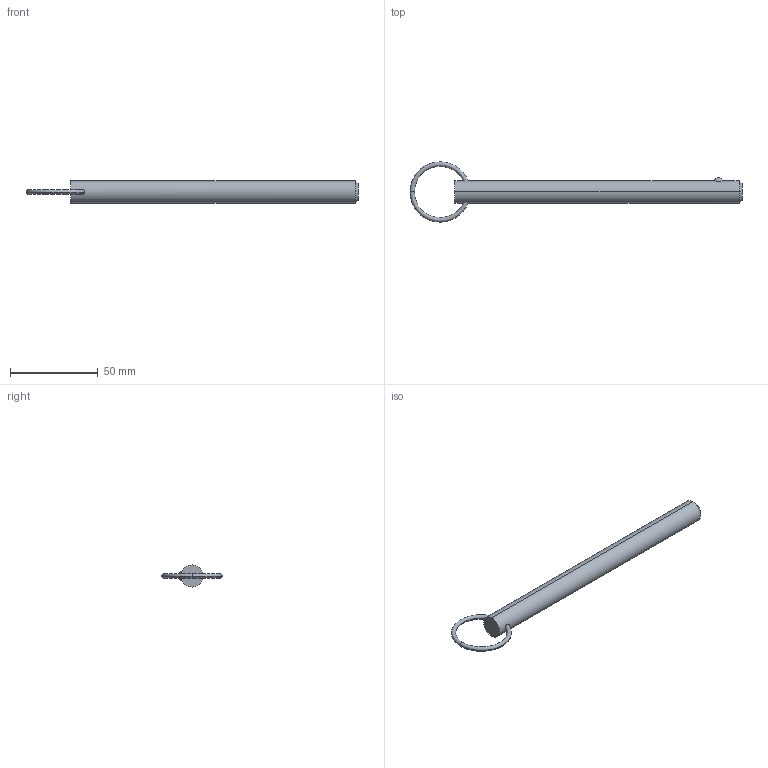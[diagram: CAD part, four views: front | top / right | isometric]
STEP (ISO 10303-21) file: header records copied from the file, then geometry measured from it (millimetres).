
FILE_DESCRIPTION (( 'STEP AP203' ), '1' );
FILE_NAME ('33012.W5055.step', '2024-11-01T14:13:56', ( '' ), ( '' ), 'SwSTEP 2.0', 'SolidWorks 2019', '' );
FILE_SCHEMA (( 'CONFIG_CONTROL_DESIGN' ));
Length unit declared in the file: millimetre
Products named in the file (3): Part1_33012.W5055; Part2_33012.W5055; 33012.W5055
Assembly tree (2 placements, depth 2):
  33012.W5055
    Part1_33012.W5055
    Part2_33012.W5055
Bounding box: 188.99 x 34.29 x 12.7 mm (x, y, z)
Volume: 21088.5 mm3; surface area: 7655.5 mm2
Topology: 2 solids, 2 shells, 16 faces, 31 edges, 18 vertices
Faces by surface type: torus 8, sphere 2, cone 2, cylinder 2, plane 2
Entity records: 885 total; most frequent: CARTESIAN_POINT 242, DIRECTION 88, ORIENTED_EDGE 62, AXIS2_PLACEMENT_3D 42, EDGE_CURVE 31, PERSON_AND_ORGANIZATION 26, CIRCLE 21, LOCAL_TIME 19
